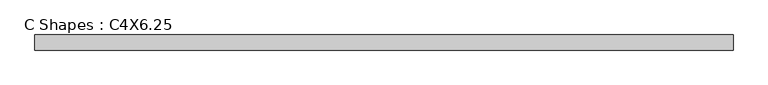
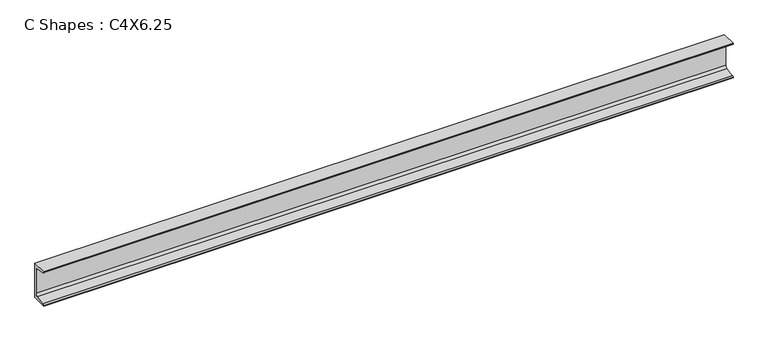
"""IFC4 building model written with IfcOpenShell, lengths in millimetres: beam geometry, C Shapes : C4X6.25."""

from ifc_helpers import new_model, si_unit, point, frame, frame_2d, origin, place, context, project, spatial, polyline, circle_curve, trimmed, segment, composite_curve, outline, extrude, source, transform, mapped, element, save


def c_shapes_c4x6_25_7dd4afaa(model_context):
    return source(origin(), model_context, "Body", "SweptSolid", [
        extrude(outline(composite_curve([segment(polyline([(11.049, 50.8), (11.049, -50.8), (-30.861, -50.8), (-30.861, -49.7865772)]), True, "CONTINUOUS"), segment(trimmed(circle_curve(frame_2d((-27.4066, -49.7865772)), 3.4544), [point((-30.861, -49.7865772))], [point((-27.9743618, -46.379155))], False, "CARTESIAN"), True, "CONTINUOUS"), segment(polyline([(-27.9743618, -46.379155), (-0.9980765, -41.8842311)]), True, "CONTINUOUS"), segment(trimmed(circle_curve(frame_2d((-2.1336, -35.0693868)), 6.9088), [point((-0.9980765, -41.8842311))], [point((4.7752, -35.0693868))], True, "CARTESIAN"), True, "CONTINUOUS"), segment(polyline([(4.7752, -35.0693868), (4.7752, 35.0693868)]), True, "CONTINUOUS"), segment(trimmed(circle_curve(frame_2d((-2.1336, 35.0693868)), 6.9088), [point((4.7752, 35.0693868))], [point((-0.9980765, 41.8842311))], True, "CARTESIAN"), True, "CONTINUOUS"), segment(polyline([(-0.9980765, 41.8842311), (-27.9743618, 46.379155)]), True, "CONTINUOUS"), segment(trimmed(circle_curve(frame_2d((-27.4066, 49.7865772)), 3.4544), [point((-27.9743618, 46.379155))], [point((-30.861, 49.7865772))], False, "CARTESIAN"), True, "CONTINUOUS"), segment(polyline([(-30.861, 49.7865772), (-30.861, 50.8), (11.049, 50.8)]), True, "CONTINUOUS")], self_intersect=False)), frame((-997.712, 0.0, 0.0), z_axis=(1.0, 0.0, 0.0), x_axis=(0.0, 1.0, 0.0)), (0.0, 0.0, 1.0), 1938.274),
    ])


if __name__ == "__main__":
    model = new_model("IFC4")
    model_context = context("Model", 3, world=origin())
    ifc_project = project(units=[si_unit("LENGTHUNIT", "METRE", prefix="MILLI")], contexts=[model_context])
    site = spatial("IfcSite", under=ifc_project)
    building = spatial("IfcBuilding", under=site)
    placement = place(None, origin())
    c_shapes_c4x6_25_shape = c_shapes_c4x6_25_7dd4afaa(model_context)
    element("IfcBeam", 1, ObjectType="C Shapes : C4X6.25", at=placement, inside=building, context=model_context, shape_type="MappedRepresentation", body=[
        mapped(c_shapes_c4x6_25_shape, transform((0.0, 0.0, 0.0), x_axis=(1.0, 0.0, 0.0), y_axis=(0.0, 1.0, 0.0), z_axis=(0.0, 0.0, 1.0))),
    ])
    save(model, "model.ifc")
